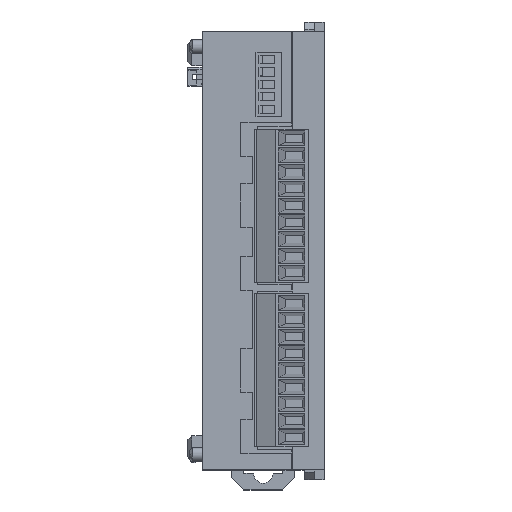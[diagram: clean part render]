
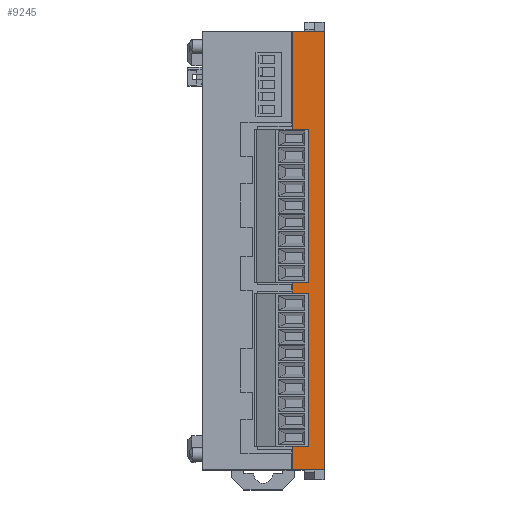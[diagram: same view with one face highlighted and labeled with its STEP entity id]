
A CAD part, top view. The second image highlights one B-rep face of the part: STEP entity #9245.
In plain terms, the highlighted planar face has unit normal (0, 0, 1).
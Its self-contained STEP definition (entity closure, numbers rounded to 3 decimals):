
#4498 = DIRECTION ( 'NONE',  ( 0., -1., 0. ) ) ;
#4499 = VECTOR ( 'NONE', #4498, 1000. ) ;
#4500 = CARTESIAN_POINT ( 'NONE',  ( 5.9, 45., 60. ) ) ;
#4501 = LINE ( 'NONE', #4500, #4499 ) ;
#4502 = CARTESIAN_POINT ( 'NONE',  ( 5.9, 25.5, 60. ) ) ;
#5087 = CARTESIAN_POINT ( 'NONE',  ( 5.9, -8.3, 60. ) ) ;
#5088 = CARTESIAN_POINT ( 'NONE',  ( 5.9, -7., 60. ) ) ;
#5141 = DIRECTION ( 'NONE',  ( 0., -1., 0. ) ) ;
#5142 = VECTOR ( 'NONE', #5141, 1000. ) ;
#5143 = CARTESIAN_POINT ( 'NONE',  ( 5.9, 45., 60. ) ) ;
#5144 = LINE ( 'NONE', #5143, #5142 ) ;
#7047 = VERTEX_POINT ( 'NONE', #20599 ) ;
#7048 = VERTEX_POINT ( 'NONE', #20598 ) ;
#7476 = EDGE_CURVE ( 'NONE', #7047, #7481, #21939, .T. ) ;
#7481 = VERTEX_POINT ( 'NONE', #21964 ) ;
#8905 = VERTEX_POINT ( 'NONE', #25461 ) ;
#8907 = EDGE_CURVE ( 'NONE', #7481, #8905, #25523, .T. ) ;
#9082 = EDGE_CURVE ( 'NONE', #8905, #12434, #25795, .T. ) ;
#9245 = ADVANCED_FACE ( 'NONE', ( #26068 ), #26111, .T. ) ;
#9246 = EDGE_LOOP ( 'NONE', ( #9314, #9315, #9316, #9318, #9319, #9321, #9322, #9323 ) ) ;
#9314 = ORIENTED_EDGE ( 'NONE', *, *, #9082, .T. ) ;
#9315 = ORIENTED_EDGE ( 'NONE', *, *, #18743, .T. ) ;
#9316 = ORIENTED_EDGE ( 'NONE', *, *, #9317, .T. ) ;
#9317 = EDGE_CURVE ( 'NONE', #18734, #28010, #26186, .T. ) ;
#9318 = ORIENTED_EDGE ( 'NONE', *, *, #28244, .T. ) ;
#9319 = ORIENTED_EDGE ( 'NONE', *, *, #9320, .T. ) ;
#9320 = EDGE_CURVE ( 'NONE', #28057, #7048, #26239, .T. ) ;
#9321 = ORIENTED_EDGE ( 'NONE', *, *, #11193, .T. ) ;
#9322 = ORIENTED_EDGE ( 'NONE', *, *, #7476, .T. ) ;
#9323 = ORIENTED_EDGE ( 'NONE', *, *, #8907, .T. ) ;
#11193 = EDGE_CURVE ( 'NONE', #7048, #7047, #32424, .T. ) ;
#12434 = VERTEX_POINT ( 'NONE', #36702 ) ;
#18734 = VERTEX_POINT ( 'NONE', #4502 ) ;
#18743 = EDGE_CURVE ( 'NONE', #12434, #18734, #4501, .T. ) ;
#20598 = CARTESIAN_POINT ( 'NONE',  ( 5.9, -40.8, 60. ) ) ;
#20599 = CARTESIAN_POINT ( 'NONE',  ( 5.9, -45., 60. ) ) ;
#21936 = DIRECTION ( 'NONE',  ( 1., 0., 0. ) ) ;
#21937 = VECTOR ( 'NONE', #21936, 1000. ) ;
#21938 = CARTESIAN_POINT ( 'NONE',  ( -12.5, -45., 60. ) ) ;
#21939 = LINE ( 'NONE', #21938, #21937 ) ;
#21964 = CARTESIAN_POINT ( 'NONE',  ( 12.5, -45., 60. ) ) ;
#25461 = CARTESIAN_POINT ( 'NONE',  ( 12.5, 45., 60. ) ) ;
#25520 = DIRECTION ( 'NONE',  ( 0., 1., 0. ) ) ;
#25521 = VECTOR ( 'NONE', #25520, 1000. ) ;
#25522 = CARTESIAN_POINT ( 'NONE',  ( 12.5, 45., 60. ) ) ;
#25523 = LINE ( 'NONE', #25522, #25521 ) ;
#25792 = DIRECTION ( 'NONE',  ( -1., 0., 0. ) ) ;
#25793 = VECTOR ( 'NONE', #25792, 1000. ) ;
#25794 = CARTESIAN_POINT ( 'NONE',  ( -12.5, 45., 60. ) ) ;
#25795 = LINE ( 'NONE', #25794, #25793 ) ;
#26068 = FACE_OUTER_BOUND ( 'NONE', #9246, .T. ) ;
#26107 = DIRECTION ( 'NONE',  ( 1., 0., 0. ) ) ;
#26108 = DIRECTION ( 'NONE',  ( 0., 0., 1. ) ) ;
#26109 = CARTESIAN_POINT ( 'NONE',  ( -12.5, -45., 60. ) ) ;
#26110 = AXIS2_PLACEMENT_3D ( 'NONE', #26109, #26108, #26107 ) ;
#26111 = PLANE ( 'NONE',  #26110 ) ;
#26183 = DIRECTION ( 'NONE',  ( 0., -1., 0. ) ) ;
#26184 = VECTOR ( 'NONE', #26183, 1000. ) ;
#26185 = CARTESIAN_POINT ( 'NONE',  ( 5.9, -45., 60. ) ) ;
#26186 = LINE ( 'NONE', #26185, #26184 ) ;
#26236 = DIRECTION ( 'NONE',  ( 0., -1., 0. ) ) ;
#26237 = VECTOR ( 'NONE', #26236, 1000. ) ;
#26238 = CARTESIAN_POINT ( 'NONE',  ( 5.9, 45., 60. ) ) ;
#26239 = LINE ( 'NONE', #26238, #26237 ) ;
#28010 = VERTEX_POINT ( 'NONE', #5088 ) ;
#28057 = VERTEX_POINT ( 'NONE', #5087 ) ;
#28244 = EDGE_CURVE ( 'NONE', #28010, #28057, #5144, .T. ) ;
#32421 = DIRECTION ( 'NONE',  ( 0., -1., 0. ) ) ;
#32422 = VECTOR ( 'NONE', #32421, 1000. ) ;
#32423 = CARTESIAN_POINT ( 'NONE',  ( 5.9, 45., 60. ) ) ;
#32424 = LINE ( 'NONE', #32423, #32422 ) ;
#36702 = CARTESIAN_POINT ( 'NONE',  ( 5.9, 45., 60. ) ) ;
